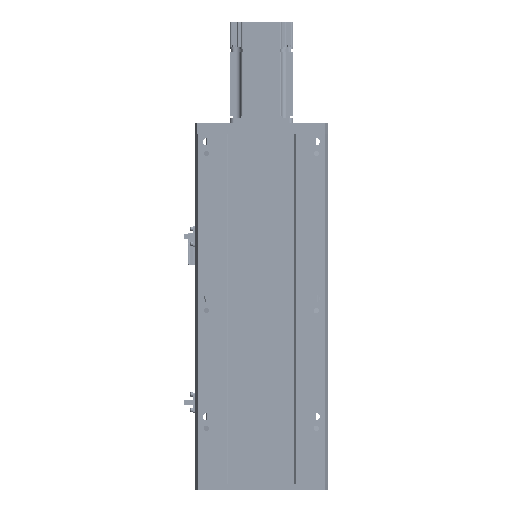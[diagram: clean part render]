
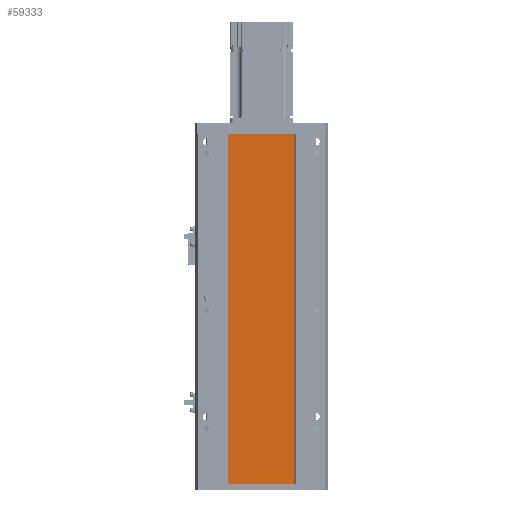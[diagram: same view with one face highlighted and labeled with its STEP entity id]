
A CAD part, front view. The second image highlights one B-rep face of the part: STEP entity #59333.
In plain terms, the highlighted planar face has unit normal (0, -1, 0).
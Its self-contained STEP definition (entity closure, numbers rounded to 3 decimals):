
#3858 = VECTOR ( 'NONE', #23100, 1000. ) ;
#4321 = EDGE_LOOP ( 'NONE', ( #55222, #44071, #47513, #4918 ) ) ;
#4918 = ORIENTED_EDGE ( 'NONE', *, *, #13835, .T. ) ;
#10988 = DIRECTION ( 'NONE',  ( 0., 0., -1. ) ) ;
#13835 = EDGE_CURVE ( 'NONE', #61190, #53078, #81747, .T. ) ;
#15461 = CARTESIAN_POINT ( 'NONE',  ( -42., 0., 0. ) ) ;
#23100 = DIRECTION ( 'NONE',  ( 0., 0., 1. ) ) ;
#25217 = VECTOR ( 'NONE', #31350, 1000. ) ;
#28085 = EDGE_CURVE ( 'NONE', #54710, #53078, #58446, .T. ) ;
#28876 = CARTESIAN_POINT ( 'NONE',  ( -42., 0., 0. ) ) ;
#30810 = CARTESIAN_POINT ( 'NONE',  ( -42., 0., -445. ) ) ;
#31350 = DIRECTION ( 'NONE',  ( 0., 0., 1. ) ) ;
#33035 = LINE ( 'NONE', #82315, #53430 ) ;
#33377 = VERTEX_POINT ( 'NONE', #54515 ) ;
#41429 = CARTESIAN_POINT ( 'NONE',  ( -42., 0., -445. ) ) ;
#44071 = ORIENTED_EDGE ( 'NONE', *, *, #76072, .F. ) ;
#47513 = ORIENTED_EDGE ( 'NONE', *, *, #73897, .T. ) ;
#48596 = CARTESIAN_POINT ( 'NONE',  ( 42., 0., -445. ) ) ;
#53078 = VERTEX_POINT ( 'NONE', #92910 ) ;
#53430 = VECTOR ( 'NONE', #66794, 1000. ) ;
#54515 = CARTESIAN_POINT ( 'NONE',  ( -42., 0., -445. ) ) ;
#54710 = VERTEX_POINT ( 'NONE', #15461 ) ;
#55222 = ORIENTED_EDGE ( 'NONE', *, *, #28085, .F. ) ;
#56060 = VECTOR ( 'NONE', #82655, 1000. ) ;
#56919 = DIRECTION ( 'NONE',  ( 0., -1., 0. ) ) ;
#58446 = LINE ( 'NONE', #28876, #56060 ) ;
#59333 = ADVANCED_FACE ( 'NONE', ( #66932 ), #79794, .T. ) ;
#61190 = VERTEX_POINT ( 'NONE', #48596 ) ;
#65031 = LINE ( 'NONE', #30810, #3858 ) ;
#66794 = DIRECTION ( 'NONE',  ( 1., 0., 0. ) ) ;
#66932 = FACE_OUTER_BOUND ( 'NONE', #4321, .T. ) ;
#73897 = EDGE_CURVE ( 'NONE', #33377, #61190, #33035, .T. ) ;
#76072 = EDGE_CURVE ( 'NONE', #33377, #54710, #65031, .T. ) ;
#79794 = PLANE ( 'NONE',  #82376 ) ;
#81747 = LINE ( 'NONE', #85099, #25217 ) ;
#82315 = CARTESIAN_POINT ( 'NONE',  ( -42., 0., -445. ) ) ;
#82376 = AXIS2_PLACEMENT_3D ( 'NONE', #41429, #56919, #10988 ) ;
#82655 = DIRECTION ( 'NONE',  ( 1., 0., 0. ) ) ;
#85099 = CARTESIAN_POINT ( 'NONE',  ( 42., 0., -445. ) ) ;
#92910 = CARTESIAN_POINT ( 'NONE',  ( 42., 0., 0. ) ) ;
